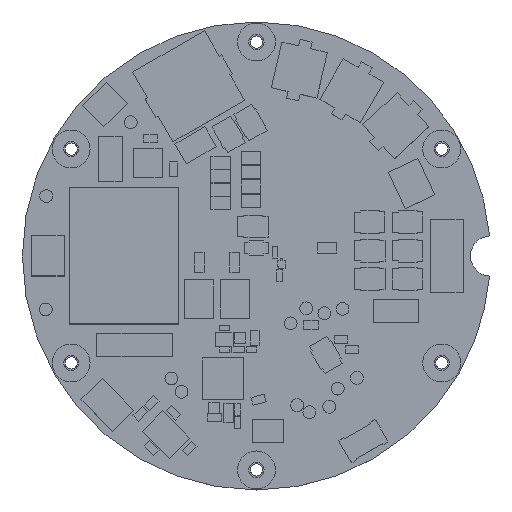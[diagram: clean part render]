
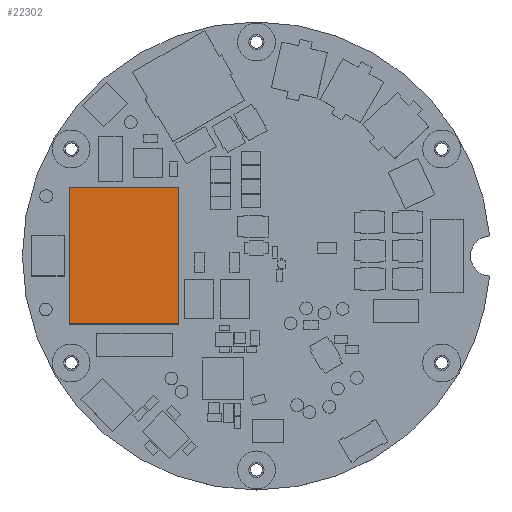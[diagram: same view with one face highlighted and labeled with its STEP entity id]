
A CAD part, top view. The second image highlights one B-rep face of the part: STEP entity #22302.
In plain terms, the highlighted planar face has unit normal (0, 0, 1).
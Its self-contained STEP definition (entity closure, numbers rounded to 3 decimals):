
#22302=ADVANCED_FACE('',(#31071),#31072,.T.);
#31071=FACE_OUTER_BOUND('',#40083,.T.);
#31072=PLANE('',#40084);
#40083=EDGE_LOOP('',(#68086,#68087,#68088,#68089));
#40084=AXIS2_PLACEMENT_3D('',#68090,#68091,#68092);
#68086=ORIENTED_EDGE('',*,*,#78255,.F.);
#68087=ORIENTED_EDGE('',*,*,#78256,.F.);
#68088=ORIENTED_EDGE('',*,*,#78257,.F.);
#68089=ORIENTED_EDGE('',*,*,#78258,.F.);
#68090=CARTESIAN_POINT('',(44.704,25.4,14.366));
#68091=DIRECTION('',(0.0,0.0,1.0));
#68092=DIRECTION('',(1.0,0.0,0.0));
#78255=EDGE_CURVE('',#92398,#92399,#92400,.T.);
#78256=EDGE_CURVE('',#92401,#92398,#92402,.T.);
#78257=EDGE_CURVE('',#92403,#92401,#92404,.T.);
#78258=EDGE_CURVE('',#92399,#92403,#92405,.T.);
#92398=VERTEX_POINT('',#112280);
#92399=VERTEX_POINT('',#112281);
#92400=LINE('',#112282,#112283);
#92401=VERTEX_POINT('',#112284);
#92402=LINE('',#112285,#112286);
#92403=VERTEX_POINT('',#112287);
#92404=LINE('',#112288,#112289);
#92405=LINE('',#112290,#112291);
#112280=CARTESIAN_POINT('',(57.653,41.549,14.366));
#112281=CARTESIAN_POINT('',(57.653,9.251,14.366));
#112282=CARTESIAN_POINT('',(57.653,25.4,14.366));
#112283=VECTOR('',#125035,0.254);
#112284=CARTESIAN_POINT('',(31.755,41.549,14.366));
#112285=CARTESIAN_POINT('',(44.704,41.549,14.366));
#112286=VECTOR('',#125036,0.254);
#112287=CARTESIAN_POINT('',(31.755,9.251,14.366));
#112288=CARTESIAN_POINT('',(31.755,25.4,14.366));
#112289=VECTOR('',#125037,0.254);
#112290=CARTESIAN_POINT('',(44.704,9.251,14.366));
#112291=VECTOR('',#125038,0.254);
#125035=DIRECTION('',(0.0,-1.0,0.0));
#125036=DIRECTION('',(1.0,0.0,0.0));
#125037=DIRECTION('',(0.0,1.0,0.0));
#125038=DIRECTION('',(-1.0,0.0,0.0));
